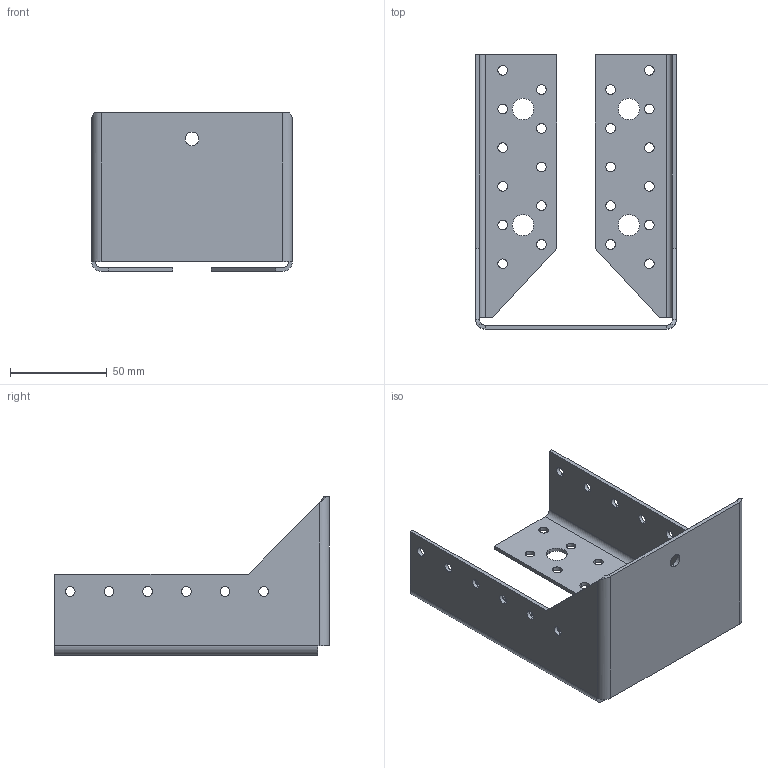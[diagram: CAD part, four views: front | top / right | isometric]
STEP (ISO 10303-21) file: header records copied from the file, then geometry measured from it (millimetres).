
FILE_DESCRIPTION (( 'STEP AP203' ), '1' );
FILE_NAME ('30508IKO.STEP', '2020-04-08T13:10:04', ( '' ), ( '' ), 'SwSTEP 2.0', 'SolidWorks 2013', '' );
FILE_SCHEMA (( 'CONFIG_CONTROL_DESIGN' ));
Length unit declared in the file: millimetre
Products named in the file (1): 30508IKO
Bounding box: 103.72 x 141.86 x 82 mm (x, y, z)
Volume: 58296 mm3; surface area: 61684.2 mm2
Topology: 1 solids, 1 shells, 122 faces, 332 edges, 212 vertices
Faces by surface type: cylinder 86, plane 34, bspline 2
Entity records: 4165 total; most frequent: DIRECTION 738, CARTESIAN_POINT 717, ORIENTED_EDGE 664, EDGE_CURVE 332, AXIS2_PLACEMENT_3D 293, VERTEX_POINT 212, EDGE_LOOP 200, CIRCLE 172
